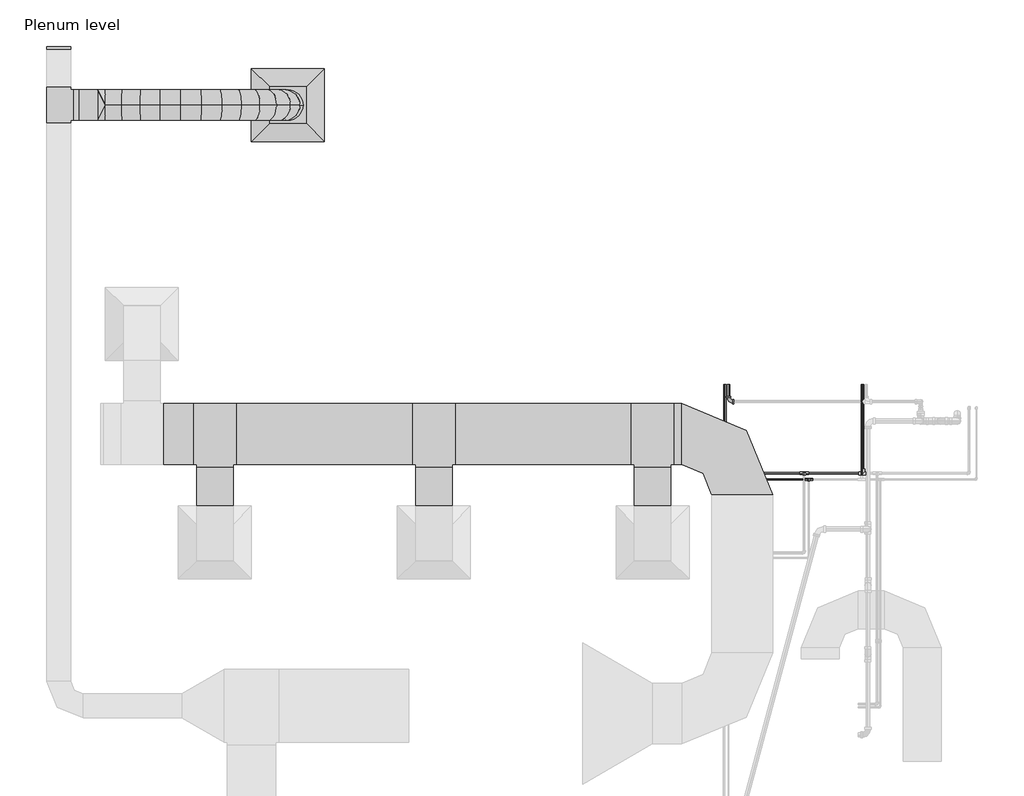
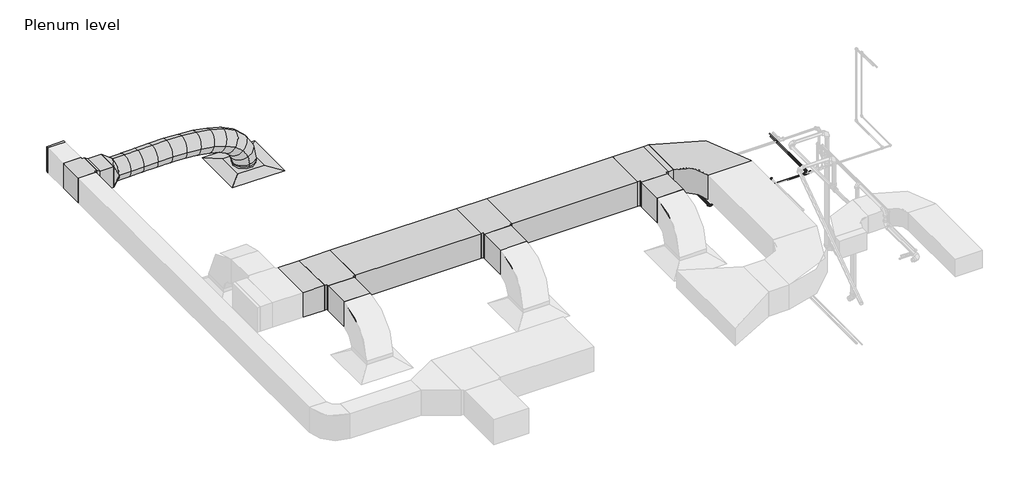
# One storey, part 4 of 5: 10 pipe segments, 9 duct segments, 8 duct fittings, 8 pipe fittings, 1 air terminal.
"""IFC4 building model written with IfcOpenShell, lengths in millimetres."""

from ifc_helpers import new_model, si_unit, point, frame, frame_2d, origin, place, context, project, spatial, polyline, circle_curve, ellipse_curve, trimmed, segment, composite_curve, outline, extrude, transform, mapped, element, save
from ifc_brep_helpers import plane_surface, cylinder_surface, advanced_brep
from components import m_supply_diffuser_rectangular_face_round_neck_600x600_250_c542da2c, m_rectangular_elbow_radius_1_w_abe20169, m_rectangular_endcap_standard_1e8adfdf, m_rectangular_tee_standard_8f40cb32, m_rectangular_tee_standard_67f42514, m_rectangular_transition_angle_60_degree_feee1646, m_rectangular_to_round_transition_angle_45_degree_cdddea5c, m_bend_pvc_sch_40_dwv_standard_a6d4ec87, m_elbow_welded_generic_standard_3d1f096c, m_elbow_welded_generic_standard_8e0ccdf9, m_tee_welded_generic_standard_d48cdf89, m_tee_welded_generic_standard_757b4df2

model = new_model("IFC4")

# Units and contexts
model_context = context("Model", 3, world=origin())
ifc_project = project(units=[si_unit("LENGTHUNIT", "METRE", prefix="MILLI")], contexts=[model_context])

# Site, building, storey
site = spatial("IfcSite", under=ifc_project)
building = spatial("IfcBuilding", under=site)
storey = spatial("IfcBuildingStorey", under=building, Name="Plenum level", Elevation=2500.0)

# Air terminal
placement = place(None, origin())
m_supply_diffuser_rectangular_face_round_neck_600x600_250_shape = m_supply_diffuser_rectangular_face_round_neck_600x600_250_c542da2c(model_context)
element("IfcAirTerminal", 1, ObjectType="M_Supply Diffuser - Rectangular Face Round Neck : 600x600 - 250 Neck", at=placement, inside=storey, context=model_context, shape_type="MappedRepresentation", body=[
    mapped(m_supply_diffuser_rectangular_face_round_neck_600x600_250_shape, transform((-15062.9123896, 3144.5675672, 2500.0), x_axis=(1.0, 0.0, 0.0), y_axis=(0.0, 1.0, 0.0), z_axis=(0.0, 0.0, 1.0))),
])

# Duct fittings
m_rectangular_elbow_radius_1_w_shape = m_rectangular_elbow_radius_1_w_abe20169(model_context)
element("IfcDuctFitting", 2, ObjectType="M_Rectangular Elbow - Radius : 1 W", at=placement, inside=storey, context=model_context, shape_type="MappedRepresentation", body=[
    mapped(m_rectangular_elbow_radius_1_w_shape, transform((-11325.0225036, 438.0925672, 2941.2), x_axis=(0.0, 1.0, 0.0), y_axis=(-1.0, 0.0, 0.0), z_axis=(0.0, 0.0, 1.0))),
])
m_rectangular_endcap_standard_shape = m_rectangular_endcap_standard_1e8adfdf(model_context)
element("IfcDuctFitting", 3, ObjectType="M_Rectangular Endcap : Standard", at=placement, inside=storey, context=model_context, shape_type="MappedRepresentation", body=[
    mapped(m_rectangular_endcap_standard_shape, transform((-16947.2723444, 3601.5909932, 2965.8874921), x_axis=(0.0, 0.9999999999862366, 5.246621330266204e-06), y_axis=(-1.0000000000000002, 0.0, 0.0), z_axis=(0.0, -5.246621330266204e-06, 0.9999999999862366))),
])
m_rectangular_tee_standard_shape = m_rectangular_tee_standard_8f40cb32(model_context)
element("IfcDuctFitting", 4, ObjectType="M_Rectangular Tee : Standard", at=placement, inside=storey, context=model_context, shape_type="MappedRepresentation", body=[
    mapped(m_rectangular_tee_standard_shape, transform((-16947.2723444, 3144.5675672, 2965.8850943), x_axis=(0.0, 0.9999999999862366, 5.246621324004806e-06), y_axis=(-1.0000000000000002, 0.0, 0.0), z_axis=(0.0, -5.246621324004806e-06, 0.9999999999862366))),
])
m_rectangular_tee_standard_2_shape = m_rectangular_tee_standard_67f42514(model_context)
element("IfcDuctFitting", 5, ObjectType="M_Rectangular Tee : Standard", at=placement, inside=storey, context=model_context, shape_type="MappedRepresentation", body=[
    mapped(m_rectangular_tee_standard_2_shape, transform((-12062.9123896, 438.0925672, 2941.2), x_axis=(1.0, 0.0, 0.0), y_axis=(0.0, 1.0, 0.0), z_axis=(0.0, 0.0, 1.0))),
])
element("IfcDuctFitting", 6, ObjectType="M_Rectangular Tee : Standard", at=placement, inside=storey, context=model_context, shape_type="MappedRepresentation", body=[
    mapped(m_rectangular_tee_standard_2_shape, transform((-13862.9123896, 438.0925672, 2941.2), x_axis=(1.0, 0.0, 0.0), y_axis=(0.0, 1.0, 0.0), z_axis=(0.0, 0.0, 1.0))),
])
element("IfcDuctFitting", 7, ObjectType="M_Rectangular Tee : Standard", at=placement, inside=storey, context=model_context, shape_type="MappedRepresentation", body=[
    mapped(m_rectangular_tee_standard_2_shape, transform((-15662.9123896, 438.0925672, 2941.2), x_axis=(1.0, 0.0, 0.0), y_axis=(0.0, 1.0, 0.0), z_axis=(0.0, 0.0, 1.0))),
])
m_rectangular_transition_angle_60_degree_shape = m_rectangular_transition_angle_60_degree_feee1646(model_context)
element("IfcDuctFitting", 8, ObjectType="M_Rectangular Transition - Angle : 60 Degree", at=placement, inside=storey, context=model_context, shape_type="MappedRepresentation", body=[
    mapped(m_rectangular_transition_angle_60_degree_shape, transform((-16822.2723444, 3144.5675672, 2965.8850943), x_axis=(1.0, 0.0, 0.0), y_axis=(0.0, 0.9999999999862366, 5.2466213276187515e-06), z_axis=(0.0, -5.2466213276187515e-06, 0.9999999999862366))),
])
m_rectangular_to_round_transition_angle_45_degree_shape = m_rectangular_to_round_transition_angle_45_degree_cdddea5c(model_context)
element("IfcDuctFitting", 9, ObjectType="M_Rectangular to Round Transition - Angle : 45 Degree", at=placement, inside=storey, context=model_context, shape_type="MappedRepresentation", body=[
    mapped(m_rectangular_to_round_transition_angle_45_degree_shape, transform((-16626.2489048, 3144.5675672, 2965.8850943), x_axis=(1.0, 0.0, 0.0), y_axis=(0.0, 1.0, 0.0), z_axis=(0.0, 0.0, 1.0))),
])

# Duct segments
element("IfcDuctSegment", 10, ObjectType="Default", at=placement, inside=storey, context=model_context, shape_type="SweptSolid", body=[
    extrude(outline(polyline([(-16778.9710742, 3019.5675672), (-16778.9710742, 3269.5675672), (-16626.2489048, 3269.5675672), (-16626.2489048, 3019.5675672), (-16778.9710742, 3019.5675672)])), frame((0.0, 0.0, 2840.8850943), z_axis=(0.0, 0.0, 1.0), x_axis=(1.0, 0.0, 0.0)), (0.0, 0.0, 1.0), 250.0),
])
element("IfcDuctSegment", 11, ObjectType="Default", at=placement, inside=storey, context=model_context, shape_type="SweptSolid", body=[
    extrude(outline(polyline([(-12212.9123896, 163.0925672), (-11912.9123896, 163.0925672), (-11912.9123896, -155.4324328), (-12212.9123896, -155.4324328), (-12212.9123896, 163.0925672)])), frame((0.0, 0.0, 2791.2), z_axis=(0.0, 0.0, 1.0), x_axis=(1.0, 0.0, 0.0)), (0.0, 0.0, 1.0), 300.0),
])
element("IfcDuctSegment", 12, ObjectType="Default", at=placement, inside=storey, context=model_context, shape_type="SweptSolid", body=[
    extrude(outline(polyline([(-11825.0225036, 688.0925672), (-11825.0225036, 188.0925672), (-11887.9123896, 188.0925672), (-11887.9123896, 688.0925672), (-11825.0225036, 688.0925672)])), frame((0.0, 0.0, 2791.2), z_axis=(0.0, 0.0, 1.0), x_axis=(1.0, 0.0, 0.0)), (0.0, 0.0, 1.0), 300.0),
])
element("IfcDuctSegment", 13, ObjectType="Default", at=placement, inside=storey, context=model_context, shape_type="SweptSolid", body=[
    extrude(outline(polyline([(-14012.9123896, 163.0925672), (-13712.9123896, 163.0925672), (-13712.9123896, -155.4324328), (-14012.9123896, -155.4324328), (-14012.9123896, 163.0925672)])), frame((0.0, 0.0, 2791.2), z_axis=(0.0, 0.0, 1.0), x_axis=(1.0, 0.0, 0.0)), (0.0, 0.0, 1.0), 300.0),
])
element("IfcDuctSegment", 14, ObjectType="Default", at=placement, inside=storey, context=model_context, shape_type="SweptSolid", body=[
    extrude(outline(polyline([(-12237.9123896, 688.0925672), (-12237.9123896, 188.0925672), (-13687.9123896, 188.0925672), (-13687.9123896, 688.0925672), (-12237.9123896, 688.0925672)])), frame((0.0, 0.0, 2791.2), z_axis=(0.0, 0.0, 1.0), x_axis=(1.0, 0.0, 0.0)), (0.0, 0.0, 1.0), 300.0),
])
element("IfcDuctSegment", 15, ObjectType="Default", at=placement, inside=storey, context=model_context, shape_type="SweptSolid", body=[
    extrude(outline(polyline([(-15812.9123896, 163.0925672), (-15512.9123896, 163.0925672), (-15512.9123896, -155.4324328), (-15812.9123896, -155.4324328), (-15812.9123896, 163.0925672)])), frame((0.0, 0.0, 2791.2), z_axis=(0.0, 0.0, 1.0), x_axis=(1.0, 0.0, 0.0)), (0.0, 0.0, 1.0), 300.0),
])
element("IfcDuctSegment", 16, ObjectType="Default", at=placement, inside=storey, context=model_context, shape_type="SweptSolid", body=[
    extrude(outline(polyline([(-14037.9123896, 688.0925672), (-14037.9123896, 188.0925672), (-15487.9123896, 188.0925672), (-15487.9123896, 688.0925672), (-14037.9123896, 688.0925672)])), frame((0.0, 0.0, 2791.2), z_axis=(0.0, 0.0, 1.0), x_axis=(1.0, 0.0, 0.0)), (0.0, 0.0, 1.0), 300.0),
])
element("IfcDuctSegment", 17, ObjectType="Default", at=placement, inside=storey, context=model_context, shape_type="SweptSolid", body=[
    extrude(outline(polyline([(-15837.9123896, 688.0925672), (-15837.9123896, 188.0925672), (-16087.9123896, 188.0925672), (-16087.9123896, 688.0925672), (-15837.9123896, 688.0925672)])), frame((0.0, 0.0, 2791.2), z_axis=(0.0, 0.0, 1.0), x_axis=(1.0, 0.0, 0.0)), (0.0, 0.0, 1.0), 300.0),
])
element("IfcDuctSegment", 18, ObjectType="Flex - Round", at=placement, inside=storey, context=model_context, shape_type="AdvancedBrep", body=[
    advanced_brep(
    [(-14937.9123896, 3144.5675672, 2553.975), (-15062.9123896, 3019.5675672, 2553.975), (-15187.9123896, 3144.5675672, 2553.975), (-15062.9123896, 3269.5675672, 2553.975), (-14937.9123896, 3144.5675672, 2587.2270499), (-15062.9123896, 3019.5675672, 2574.6366163), (-15187.9123896, 3144.5675672, 2562.0461826), (-15062.9123896, 3269.5675672, 2574.6366163), (-14964.259061, 3144.5675672, 2716.6873377), (-15082.5355095, 3019.5675672, 2671.0592234), (-15200.8119579, 3144.5675672, 2625.4311091), (-15082.5355095, 3269.5675672, 2671.0592234), (-15041.4015956, 3144.5675672, 2846.6748332), (-15138.0591802, 3019.5675672, 2764.6182818), (-15234.7167648, 3144.5675672, 2682.5617304), (-15138.0591802, 3269.5675672, 2764.6182818), (-15156.0615793, 3144.5675672, 2942.9846691), (-15224.4648688, 3019.5675672, 2837.1956311), (-15292.8681583, 3144.5675672, 2731.4065931), (-15224.4648688, 3269.5675672, 2837.1956311), (-15292.0074788, 3144.5675672, 3008.5412944), (-15336.7340421, 3019.5675672, 2891.3347273), (-15381.4606054, 3144.5675672, 2774.1281602), (-15336.7340421, 3269.5675672, 2891.3347273), (-15442.1968544, 3144.5675672, 3051.6913913), (-15469.848167, 3019.5675672, 2929.5790263), (-15497.4994796, 3144.5675672, 2807.4666613), (-15469.848167, 3269.5675672, 2929.5790263), (-15602.9725882, 3144.5675672, 3078.562406), (-15618.7887104, 3019.5675672, 2954.4719839), (-15634.6048326, 3144.5675672, 2830.3815619), (-15618.7887104, 3269.5675672, 2954.4719839), (-15770.846162, 3144.5675672, 3093.363875), (-15778.5371392, 3019.5675672, 2968.5570562), (-15786.2281163, 3144.5675672, 2843.7502374), (-15778.5371392, 3269.5675672, 2968.5570562), (-15941.8405281, 3144.5675672, 3099.3763824), (-15944.0749202, 3019.5675672, 2974.377699), (-15946.3093123, 3144.5675672, 2849.3790157), (-15944.0749202, 3269.5675672, 2974.377699), (-16111.5329555, 3144.5675672, 3099.4780796), (-16110.3835204, 3019.5675672, 2974.4773683), (-16109.2340852, 3144.5675672, 2849.476657), (-16110.3835204, 3269.5675672, 2974.4773683), (-16275.1491002, 3144.5675672, 3096.370694), (-16272.4444066, 3019.5675672, 2971.39952), (-16269.7397131, 3144.5675672, 2846.4283461), (-16272.4444066, 3269.5675672, 2971.39952), (-16427.570296, 3144.5675672, 3092.6678562), (-16425.2390458, 3019.5675672, 2967.68761), (-16422.9077956, 3144.5675672, 2842.7073638), (-16425.2390458, 3269.5675672, 2967.68761), (-16565.3754705, 3144.5675672, 3090.874511), (-16563.7489048, 3019.5675672, 2965.8850943), (-16562.122339, 3144.5675672, 2840.8956776), (-16563.7489048, 3269.5675672, 2965.8850943)],
    [
        (0, 1, circle_curve(frame((-15062.9123896, 3144.5675672, 2553.975), z_axis=(0.0, 0.0, -1.0), x_axis=(1.0, 0.0, 0.0)), 125.0)),
        (1, 2, circle_curve(frame((-15062.9123896, 3144.5675672, 2553.975), z_axis=(0.0, 0.0, -1.0), x_axis=(1.0, 0.0, 0.0)), 125.0)),
        (2, 3, circle_curve(frame((-15062.9123896, 3144.5675672, 2553.975), z_axis=(0.0, 0.0, -1.0), x_axis=(1.0, 0.0, 0.0)), 125.0)),
        (3, 0, circle_curve(frame((-15062.9123896, 3144.5675672, 2553.975), z_axis=(0.0, 0.0, -1.0), x_axis=(1.0, 0.0, 0.0)), 125.0)),
        (0, 4),
        (4, 5, ellipse_curve(frame((-15062.9123896, 3144.5675672, 2574.6366163), z_axis=(0.10021639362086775, 0.0, -0.9949656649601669), x_axis=(-0.9949656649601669, 0.0, -0.10021639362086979)), 125.632476, 125.0)),
        (5, 1),
        (5, 6, ellipse_curve(frame((-15062.9123896, 3144.5675672, 2574.6366163), z_axis=(0.10021639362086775, 0.0, -0.9949656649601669), x_axis=(-0.9949656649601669, 0.0, -0.10021639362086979)), 125.632476, 125.0)),
        (6, 2),
        (6, 7, ellipse_curve(frame((-15062.9123896, 3144.5675672, 2574.6366163), z_axis=(0.10021639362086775, 0.0, -0.9949656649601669), x_axis=(-0.9949656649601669, 0.0, -0.10021639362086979)), 125.632476, 125.0)),
        (7, 3),
        (7, 4, ellipse_curve(frame((-15062.9123896, 3144.5675672, 2574.6366163), z_axis=(0.10021639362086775, 0.0, -0.9949656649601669), x_axis=(-0.9949656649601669, 0.0, -0.10021639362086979)), 125.632476, 125.0)),
        (4, 8),
        (8, 9, ellipse_curve(frame((-15082.5355095, 3144.5675672, 2671.0592234), z_axis=(0.35992149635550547, 0.0, -0.9329825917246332), x_axis=(-0.9329825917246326, 0.0, -0.35992149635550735)), 126.7724066, 125.0)),
        (9, 5),
        (9, 10, ellipse_curve(frame((-15082.5355095, 3144.5675672, 2671.0592234), z_axis=(0.35992149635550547, 0.0, -0.9329825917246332), x_axis=(-0.9329825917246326, 0.0, -0.35992149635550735)), 126.7724066, 125.0)),
        (10, 6),
        (10, 11, ellipse_curve(frame((-15082.5355095, 3144.5675672, 2671.0592234), z_axis=(0.35992149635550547, 0.0, -0.9329825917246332), x_axis=(-0.9329825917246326, 0.0, -0.35992149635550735)), 126.7724066, 125.0)),
        (11, 7),
        (11, 8, ellipse_curve(frame((-15082.5355095, 3144.5675672, 2671.0592234), z_axis=(0.35992149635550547, 0.0, -0.9329825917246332), x_axis=(-0.9329825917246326, 0.0, -0.35992149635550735)), 126.7724066, 125.0)),
        (8, 12),
        (12, 13, ellipse_curve(frame((-15138.0591802, 3144.5675672, 2764.6182818), z_axis=(0.6471794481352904, 0.0, -0.7623376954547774), x_axis=(-0.7623376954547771, 0.0, -0.6471794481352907)), 126.7910339, 125.0)),
        (13, 9),
        (13, 14, ellipse_curve(frame((-15138.0591802, 3144.5675672, 2764.6182818), z_axis=(0.6471794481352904, 0.0, -0.7623376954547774), x_axis=(-0.7623376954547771, 0.0, -0.6471794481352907)), 126.7910339, 125.0)),
        (14, 10),
        (14, 15, ellipse_curve(frame((-15138.0591802, 3144.5675672, 2764.6182818), z_axis=(0.6471794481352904, 0.0, -0.7623376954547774), x_axis=(-0.7623376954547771, 0.0, -0.6471794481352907)), 126.7910339, 125.0)),
        (15, 11),
        (15, 12, ellipse_curve(frame((-15138.0591802, 3144.5675672, 2764.6182818), z_axis=(0.6471794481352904, 0.0, -0.7623376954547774), x_axis=(-0.7623376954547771, 0.0, -0.6471794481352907)), 126.7910339, 125.0)),
        (12, 16),
        (16, 17, ellipse_curve(frame((-15224.4648688, 3144.5675672, 2837.1956311), z_axis=(0.8397454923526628, 0.0, -0.5429802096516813), x_axis=(-0.5429802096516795, 0.0, -0.839745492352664)), 125.9775003, 125.0)),
        (17, 13),
        (17, 18, ellipse_curve(frame((-15224.4648688, 3144.5675672, 2837.1956311), z_axis=(0.8397454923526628, 0.0, -0.5429802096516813), x_axis=(-0.5429802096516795, 0.0, -0.839745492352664)), 125.9775003, 125.0)),
        (18, 14),
        (18, 19, ellipse_curve(frame((-15224.4648688, 3144.5675672, 2837.1956311), z_axis=(0.8397454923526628, 0.0, -0.5429802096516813), x_axis=(-0.5429802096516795, 0.0, -0.839745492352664)), 125.9775003, 125.0)),
        (19, 15),
        (19, 16, ellipse_curve(frame((-15224.4648688, 3144.5675672, 2837.1956311), z_axis=(0.8397454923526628, 0.0, -0.5429802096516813), x_axis=(-0.5429802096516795, 0.0, -0.839745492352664)), 125.9775003, 125.0)),
        (16, 20),
        (20, 21, ellipse_curve(frame((-15336.7340421, 3144.5675672, 2891.3347273), z_axis=(0.9342848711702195, 0.0, -0.35652738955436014), x_axis=(-0.35652738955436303, 0.0, -0.9342848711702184)), 125.4505673, 125.0)),
        (21, 17),
        (21, 22, ellipse_curve(frame((-15336.7340421, 3144.5675672, 2891.3347273), z_axis=(0.9342848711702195, 0.0, -0.35652738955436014), x_axis=(-0.35652738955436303, 0.0, -0.9342848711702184)), 125.4505673, 125.0)),
        (22, 18),
        (22, 23, ellipse_curve(frame((-15336.7340421, 3144.5675672, 2891.3347273), z_axis=(0.9342848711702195, 0.0, -0.35652738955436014), x_axis=(-0.35652738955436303, 0.0, -0.9342848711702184)), 125.4505673, 125.0)),
        (23, 19),
        (23, 20, ellipse_curve(frame((-15336.7340421, 3144.5675672, 2891.3347273), z_axis=(0.9342848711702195, 0.0, -0.35652738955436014), x_axis=(-0.35652738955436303, 0.0, -0.9342848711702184)), 125.4505673, 125.0)),
        (20, 24),
        (24, 25, ellipse_curve(frame((-15469.848167, 3144.5675672, 2929.5790263), z_axis=(0.97530774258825, 0.0, -0.22085019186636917), x_axis=(-0.22085019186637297, 0.0, -0.975307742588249)), 125.2039327, 125.0)),
        (25, 21),
        (25, 26, ellipse_curve(frame((-15469.848167, 3144.5675672, 2929.5790263), z_axis=(0.97530774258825, 0.0, -0.22085019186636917), x_axis=(-0.22085019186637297, 0.0, -0.975307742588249)), 125.2039327, 125.0)),
        (26, 22),
        (26, 27, ellipse_curve(frame((-15469.848167, 3144.5675672, 2929.5790263), z_axis=(0.97530774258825, 0.0, -0.22085019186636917), x_axis=(-0.22085019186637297, 0.0, -0.975307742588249)), 125.2039327, 125.0)),
        (27, 23),
        (27, 24, ellipse_curve(frame((-15469.848167, 3144.5675672, 2929.5790263), z_axis=(0.97530774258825, 0.0, -0.22085019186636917), x_axis=(-0.22085019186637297, 0.0, -0.975307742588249)), 125.2039327, 125.0)),
        (24, 28),
        (28, 29, ellipse_curve(frame((-15618.7887104, 3144.5675672, 2954.4719839), z_axis=(0.991975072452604, 0.0, -0.12643360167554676), x_axis=(-0.12643360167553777, 0.0, -0.9919750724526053)), 125.0942947, 125.0)),
        (29, 25),
        (29, 30, ellipse_curve(frame((-15618.7887104, 3144.5675672, 2954.4719839), z_axis=(0.991975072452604, 0.0, -0.12643360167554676), x_axis=(-0.12643360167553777, 0.0, -0.9919750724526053)), 125.0942947, 125.0)),
        (30, 26),
        (30, 31, ellipse_curve(frame((-15618.7887104, 3144.5675672, 2954.4719839), z_axis=(0.991975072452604, 0.0, -0.12643360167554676), x_axis=(-0.12643360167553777, 0.0, -0.9919750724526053)), 125.0942947, 125.0)),
        (31, 27),
        (31, 28, ellipse_curve(frame((-15618.7887104, 3144.5675672, 2954.4719839), z_axis=(0.991975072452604, 0.0, -0.12643360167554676), x_axis=(-0.12643360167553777, 0.0, -0.9919750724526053)), 125.0942947, 125.0)),
        (28, 32),
        (32, 33, ellipse_curve(frame((-15778.5371392, 3144.5675672, 2968.5570562), z_axis=(0.9981066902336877, 0.0, -0.06150638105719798), x_axis=(-0.06150638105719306, 0.0, -0.9981066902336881)), 125.043565, 125.0)),
        (33, 29),
        (33, 34, ellipse_curve(frame((-15778.5371392, 3144.5675672, 2968.5570562), z_axis=(0.9981066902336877, 0.0, -0.06150638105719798), x_axis=(-0.06150638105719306, 0.0, -0.9981066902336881)), 125.043565, 125.0)),
        (34, 30),
        (34, 35, ellipse_curve(frame((-15778.5371392, 3144.5675672, 2968.5570562), z_axis=(0.9981066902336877, 0.0, -0.06150638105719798), x_axis=(-0.06150638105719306, 0.0, -0.9981066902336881)), 125.043565, 125.0)),
        (35, 31),
        (35, 32, ellipse_curve(frame((-15778.5371392, 3144.5675672, 2968.5570562), z_axis=(0.9981066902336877, 0.0, -0.06150638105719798), x_axis=(-0.06150638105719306, 0.0, -0.9981066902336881)), 125.043565, 125.0)),
        (32, 36),
        (36, 37, ellipse_curve(frame((-15944.0749202, 3144.5675672, 2974.377699), z_axis=(0.9998402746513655, 0.0, -0.01787247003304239), x_axis=(-0.017872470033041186, 0.0, -0.9998402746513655)), 125.018652, 125.0)),
        (37, 33),
        (37, 38, ellipse_curve(frame((-15944.0749202, 3144.5675672, 2974.377699), z_axis=(0.9998402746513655, 0.0, -0.01787247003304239), x_axis=(-0.017872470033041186, 0.0, -0.9998402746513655)), 125.018652, 125.0)),
        (38, 34),
        (38, 39, ellipse_curve(frame((-15944.0749202, 3144.5675672, 2974.377699), z_axis=(0.9998402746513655, 0.0, -0.01787247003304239), x_axis=(-0.017872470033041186, 0.0, -0.9998402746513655)), 125.018652, 125.0)),
        (39, 35),
        (39, 36, ellipse_curve(frame((-15944.0749202, 3144.5675672, 2974.377699), z_axis=(0.9998402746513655, 0.0, -0.01787247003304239), x_axis=(-0.017872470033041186, 0.0, -0.9998402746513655)), 125.018652, 125.0)),
        (36, 40),
        (40, 41, ellipse_curve(frame((-16110.3835204, 3144.5675672, 2974.4773683), z_axis=(0.9999577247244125, 0.0, 0.009195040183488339), x_axis=(0.009195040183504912, 0.0, -0.9999577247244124)), 125.005996, 125.0)),
        (41, 37),
        (41, 42, ellipse_curve(frame((-16110.3835204, 3144.5675672, 2974.4773683), z_axis=(0.9999577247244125, 0.0, 0.009195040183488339), x_axis=(0.009195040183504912, 0.0, -0.9999577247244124)), 125.005996, 125.0)),
        (42, 38),
        (42, 43, ellipse_curve(frame((-16110.3835204, 3144.5675672, 2974.4773683), z_axis=(0.9999577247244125, 0.0, 0.009195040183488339), x_axis=(0.009195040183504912, 0.0, -0.9999577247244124)), 125.005996, 125.0)),
        (43, 39),
        (43, 40, ellipse_curve(frame((-16110.3835204, 3144.5675672, 2974.4773683), z_axis=(0.9999577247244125, 0.0, 0.009195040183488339), x_axis=(0.009195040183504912, 0.0, -0.9999577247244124)), 125.005996, 125.0)),
        (40, 44),
        (44, 45, ellipse_curve(frame((-16272.4444066, 3144.5675672, 2971.39952), z_axis=(0.9997658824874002, 0.0, 0.021637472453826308), x_axis=(0.021637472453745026, 0.0, -0.9997658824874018)), 125.0004387, 125.0)),
        (45, 41),
        (45, 46, ellipse_curve(frame((-16272.4444066, 3144.5675672, 2971.39952), z_axis=(0.9997658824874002, 0.0, 0.021637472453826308), x_axis=(0.021637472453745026, 0.0, -0.9997658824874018)), 125.0004387, 125.0)),
        (46, 42),
        (46, 47, ellipse_curve(frame((-16272.4444066, 3144.5675672, 2971.39952), z_axis=(0.9997658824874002, 0.0, 0.021637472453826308), x_axis=(0.021637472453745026, 0.0, -0.9997658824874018)), 125.0004387, 125.0)),
        (47, 43),
        (47, 44, ellipse_curve(frame((-16272.4444066, 3144.5675672, 2971.39952), z_axis=(0.9997658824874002, 0.0, 0.021637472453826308), x_axis=(0.021637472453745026, 0.0, -0.9997658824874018)), 125.0004387, 125.0)),
        (44, 48),
        (48, 49, ellipse_curve(frame((-16425.2390458, 3144.5675672, 2967.68761), z_axis=(0.9998260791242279, 0.0, 0.01864970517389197), x_axis=(-0.01864970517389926, 0.0, 0.9998260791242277)), 125.0019866, 125.0)),
        (49, 45),
        (49, 50, ellipse_curve(frame((-16425.2390458, 3144.5675672, 2967.68761), z_axis=(0.9998260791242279, 0.0, 0.01864970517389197), x_axis=(-0.01864970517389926, 0.0, 0.9998260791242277)), 125.0019866, 125.0)),
        (50, 46),
        (50, 51, ellipse_curve(frame((-16425.2390458, 3144.5675672, 2967.68761), z_axis=(0.9998260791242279, 0.0, 0.01864970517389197), x_axis=(-0.01864970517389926, 0.0, 0.9998260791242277)), 125.0019866, 125.0)),
        (51, 47),
        (51, 48, ellipse_curve(frame((-16425.2390458, 3144.5675672, 2967.68761), z_axis=(0.9998260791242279, 0.0, 0.01864970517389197), x_axis=(-0.01864970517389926, 0.0, 0.9998260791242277)), 125.0019866, 125.0)),
        (48, 52),
        (52, 53, circle_curve(frame((-16563.7489048, 3144.5675672, 2965.8850943), z_axis=(0.9999153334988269, 0.0, 0.013012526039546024), x_axis=(-0.013012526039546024, 0.0, 0.9999153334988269)), 125.0)),
        (53, 49),
        (53, 54, circle_curve(frame((-16563.7489048, 3144.5675672, 2965.8850943), z_axis=(0.9999153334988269, 0.0, 0.013012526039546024), x_axis=(-0.013012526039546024, 0.0, 0.9999153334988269)), 125.0)),
        (54, 50),
        (54, 55, circle_curve(frame((-16563.7489048, 3144.5675672, 2965.8850943), z_axis=(0.9999153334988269, 0.0, 0.013012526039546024), x_axis=(-0.013012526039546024, 0.0, 0.9999153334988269)), 125.0)),
        (55, 51),
        (55, 52, circle_curve(frame((-16563.7489048, 3144.5675672, 2965.8850943), z_axis=(0.9999153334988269, 0.0, 0.013012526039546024), x_axis=(-0.013012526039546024, 0.0, 0.9999153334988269)), 125.0)),
    ],
    [
        plane_surface(frame((-15062.9123896, 3019.5675672, 2553.975), z_axis=(0.0, 0.0, -1.0), x_axis=(1.0, 0.0, 0.0))),
        cylinder_surface(frame((-15062.9123896, 3144.5675672, 2553.975), z_axis=(0.0, 0.0, -1.0), x_axis=(1.0, 0.0, 0.0)), 125.0),
        cylinder_surface(frame((-15062.9123896, 3144.5675672, 2574.6366163), z_axis=(0.19942374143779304, 0.0, -0.9799133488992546), x_axis=(0.9799133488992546, 0.0, 0.19942374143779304)), 125.0),
        cylinder_surface(frame((-15082.5355095, 3144.5675672, 2671.0592234), z_axis=(0.5103551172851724, 0.0, -0.8599637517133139), x_axis=(0.8599637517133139, 0.0, 0.5103551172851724)), 125.0),
        cylinder_surface(frame((-15138.0591802, 3144.5675672, 2764.6182818), z_axis=(0.7657198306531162, 0.0, -0.6431742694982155), x_axis=(0.6431742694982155, 0.0, 0.7657198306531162)), 125.0),
        cylinder_surface(frame((-15224.4648688, 3144.5675672, 2837.1956311), z_axis=(0.900739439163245, 0.0, -0.4343598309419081), x_axis=(0.4343598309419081, 0.0, 0.900739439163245)), 125.0),
        cylinder_surface(frame((-15336.7340421, 3144.5675672, 2891.3347273), z_axis=(0.9611191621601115, 0.0, -0.27613394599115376), x_axis=(0.27613394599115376, 0.0, 0.9611191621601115)), 125.0),
        cylinder_surface(frame((-15469.848167, 3144.5675672, 2929.5790263), z_axis=(0.9863191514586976, 0.0, -0.16484699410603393), x_axis=(0.16484699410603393, 0.0, 0.9863191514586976)), 125.0),
        cylinder_surface(frame((-15618.7887104, 3144.5675672, 2954.4719839), z_axis=(0.9961355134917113, 0.0, -0.08782960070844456), x_axis=(0.08782960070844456, 0.0, 0.9961355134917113)), 125.0),
        cylinder_surface(frame((-15778.5371392, 3144.5675672, 2968.5570562), z_axis=(0.9993823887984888, 0.0, -0.03514030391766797), x_axis=(0.03514030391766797, 0.0, 0.9993823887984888)), 125.0),
        cylinder_surface(frame((-15944.0749202, 3144.5675672, 2974.377699), z_axis=(0.9999998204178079, 0.0, -0.0005993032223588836), x_axis=(0.0005993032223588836, 0.0, 0.9999998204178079)), 125.0),
        cylinder_surface(frame((-16110.3835204, 3144.5675672, 2974.4773683), z_axis=(0.9998197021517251, 0.0, 0.01898850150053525), x_axis=(-0.01898850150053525, 0.0, 0.9998197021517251)), 125.0),
        cylinder_surface(frame((-16272.4444066, 3144.5675672, 2971.39952), z_axis=(0.9997050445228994, 0.0, 0.02428629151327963), x_axis=(-0.02428629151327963, 0.0, 0.9997050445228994)), 125.0),
        cylinder_surface(frame((-16425.2390458, 3144.5675672, 2967.68761), z_axis=(0.9999153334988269, 0.0, 0.013012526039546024), x_axis=(-0.013012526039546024, 0.0, 0.9999153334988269)), 125.0),
        plane_surface(frame((-16563.7489048, 3269.5675672, 2965.8850943), z_axis=(-0.9999153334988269, 0.0, -0.013012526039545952), x_axis=(0.013012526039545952, 0.0, -0.9999153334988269))),
    ],
    [
        (0, [[1, 2, 3, 4]]),
        (1, [[-1, 5, 6, 7]]),
        (1, [[-2, -7, 8, 9]]),
        (1, [[-3, -9, 10, 11]]),
        (1, [[-4, -11, 12, -5]]),
        (2, [[-6, 13, 14, 15]]),
        (2, [[-8, -15, 16, 17]]),
        (2, [[-10, -17, 18, 19]]),
        (2, [[-12, -19, 20, -13]]),
        (3, [[-14, 21, 22, 23]]),
        (3, [[-16, -23, 24, 25]]),
        (3, [[-18, -25, 26, 27]]),
        (3, [[-20, -27, 28, -21]]),
        (4, [[-22, 29, 30, 31]]),
        (4, [[-24, -31, 32, 33]]),
        (4, [[-26, -33, 34, 35]]),
        (4, [[-28, -35, 36, -29]]),
        (5, [[-30, 37, 38, 39]]),
        (5, [[-32, -39, 40, 41]]),
        (5, [[-34, -41, 42, 43]]),
        (5, [[-36, -43, 44, -37]]),
        (6, [[-38, 45, 46, 47]]),
        (6, [[-40, -47, 48, 49]]),
        (6, [[-42, -49, 50, 51]]),
        (6, [[-44, -51, 52, -45]]),
        (7, [[-46, 53, 54, 55]]),
        (7, [[-48, -55, 56, 57]]),
        (7, [[-50, -57, 58, 59]]),
        (7, [[-52, -59, 60, -53]]),
        (8, [[-54, 61, 62, 63]]),
        (8, [[-56, -63, 64, 65]]),
        (8, [[-58, -65, 66, 67]]),
        (8, [[-60, -67, 68, -61]]),
        (9, [[-62, 69, 70, 71]]),
        (9, [[-64, -71, 72, 73]]),
        (9, [[-66, -73, 74, 75]]),
        (9, [[-68, -75, 76, -69]]),
        (10, [[-70, 77, 78, 79]]),
        (10, [[-72, -79, 80, 81]]),
        (10, [[-74, -81, 82, 83]]),
        (10, [[-76, -83, 84, -77]]),
        (11, [[-78, 85, 86, 87]]),
        (11, [[-80, -87, 88, 89]]),
        (11, [[-82, -89, 90, 91]]),
        (11, [[-84, -91, 92, -85]]),
        (12, [[-86, 93, 94, 95]]),
        (12, [[-88, -95, 96, 97]]),
        (12, [[-90, -97, 98, 99]]),
        (12, [[-92, -99, 100, -93]]),
        (13, [[-94, 101, 102, 103]]),
        (13, [[-96, -103, 104, 105]]),
        (13, [[-98, -105, 106, 107]]),
        (13, [[-100, -107, 108, -101]]),
        (14, [[-108, -106, -104, -102]]),
    ],
),
])

# Pipe fittings
m_bend_pvc_sch_40_dwv_standard_shape = m_bend_pvc_sch_40_dwv_standard_a6d4ec87(model_context)
element("IfcPipeFitting", 19, ObjectType="M_Bend - PVC - Sch 40 - DWV : Standard", at=placement, inside=storey, context=model_context, shape_type="MappedRepresentation", body=[
    mapped(m_bend_pvc_sch_40_dwv_standard_shape, transform((-11438.6873896, 704.5675761, 2607.2), x_axis=(0.0, -1.0, 0.0), y_axis=(1.0, 0.0, 0.0), z_axis=(0.0, 0.0, 1.0))),
])
m_elbow_welded_generic_standard_shape = m_elbow_welded_generic_standard_3d1f096c(model_context)
element("IfcPipeFitting", 20, ObjectType="M_Elbow - Welded - Generic : Standard", at=placement, inside=storey, context=model_context, shape_type="MappedRepresentation", body=[
    mapped(m_elbow_welded_generic_standard_shape, transform((-11464.0873896, 114.5675672, 2575.4), x_axis=(0.0, -1.0, 0.0), y_axis=(1.0, 0.0, 0.0), z_axis=(0.0, 0.0, 1.0))),
])
element("IfcPipeFitting", 21, ObjectType="M_Elbow - Welded - Generic : Standard", at=placement, inside=storey, context=model_context, shape_type="MappedRepresentation", body=[
    mapped(m_elbow_welded_generic_standard_shape, transform((-10816.7873896, 114.5675672, 2700.0), x_axis=(0.0, 0.0, 1.0), y_axis=(0.0, -1.0, 0.0), z_axis=(1.0, 0.0, 0.0))),
])
m_elbow_welded_generic_standard_2_shape = m_elbow_welded_generic_standard_8e0ccdf9(model_context)
element("IfcPipeFitting", 22, ObjectType="M_Elbow - Welded - Generic : Standard", at=placement, inside=storey, context=model_context, shape_type="MappedRepresentation", body=[
    mapped(m_elbow_welded_generic_standard_2_shape, transform((-11476.7873896, 64.5675672, 2613.5), x_axis=(0.0, -1.0, 0.0), y_axis=(1.0, 0.0, 0.0), z_axis=(0.0, 0.0, 1.0))),
])
element("IfcPipeFitting", 23, ObjectType="M_Elbow - Welded - Generic : Standard", at=placement, inside=storey, context=model_context, shape_type="MappedRepresentation", body=[
    mapped(m_elbow_welded_generic_standard_2_shape, transform((-10778.6873896, 64.5675672, 2700.0), x_axis=(0.0, 0.0, 1.0), y_axis=(0.0, -1.0, 0.0), z_axis=(1.0, 0.0, 0.0))),
])
m_tee_welded_generic_standard_shape = m_tee_welded_generic_standard_d48cdf89(model_context)
element("IfcPipeFitting", 24, ObjectType="M_Tee - Welded - Generic : Standard", at=placement, inside=storey, context=model_context, shape_type="MappedRepresentation", body=[
    mapped(m_tee_welded_generic_standard_shape, transform((-10816.7873896, 114.5675672, 2575.4), x_axis=(-1.0, 0.0, 0.0), y_axis=(0.0, 0.0, -1.0), z_axis=(0.0, -1.0, 0.0))),
])
element("IfcPipeFitting", 25, ObjectType="M_Tee - Welded - Generic : Standard", at=placement, inside=storey, context=model_context, shape_type="MappedRepresentation", body=[
    mapped(m_tee_welded_generic_standard_shape, transform((-10332.0873896, 114.5675672, 2575.4), x_axis=(-1.0, 0.0, 0.0), y_axis=(0.0, -1.0, 0.0), z_axis=(0.0, 0.0, 1.0))),
])
m_tee_welded_generic_standard_2_shape = m_tee_welded_generic_standard_757b4df2(model_context)
element("IfcPipeFitting", 26, ObjectType="M_Tee - Welded - Generic : Standard", at=placement, inside=storey, context=model_context, shape_type="MappedRepresentation", body=[
    mapped(m_tee_welded_generic_standard_2_shape, transform((-10778.6873896, 64.5675672, 2613.5), x_axis=(-1.0, 0.0, 0.0), y_axis=(0.0, 0.0, -1.0), z_axis=(0.0, -1.0, 0.0))),
])

# Pipe segments
element("IfcPipeSegment", 27, ObjectType="COPPER PIPE", at=placement, inside=storey, context=model_context, shape_type="SweptSolid", body=[
    extrude(outline(composite_curve([segment(trimmed(circle_curve(frame_2d((2575.45, -11464.0873896)), 6.5), [point((2575.45, -11470.5873896))], [point((2568.95, -11464.0873896))], False, "CARTESIAN"), True, "CONTINUOUS"), segment(trimmed(circle_curve(frame_2d((2575.45, -11464.0873896)), 6.5), [point((2568.95, -11464.0873896))], [point((2575.45, -11457.5873896))], False, "CARTESIAN"), True, "CONTINUOUS"), segment(trimmed(circle_curve(frame_2d((2575.45, -11464.0873896)), 6.5), [point((2575.45, -11457.5873896))], [point((2581.95, -11464.0873896))], False, "CARTESIAN"), True, "CONTINUOUS"), segment(trimmed(circle_curve(frame_2d((2575.45, -11464.0873896)), 6.5), [point((2581.95, -11464.0873896))], [point((2575.45, -11470.5873896))], False, "CARTESIAN"), True, "CONTINUOUS")], self_intersect=False)), frame((0.0, 129.3265516, 0.0), z_axis=(0.0, 1.0, 0.0), x_axis=(0.0, 0.0, 1.0)), (0.0, 0.0, 1.0), 715.2410156),
])
element("IfcPipeSegment", 28, ObjectType="COPPER PIPE", at=placement, inside=storey, context=model_context, shape_type="SweptSolid", body=[
    extrude(outline(composite_curve([segment(trimmed(circle_curve(frame_2d((2613.55, -11476.7873896)), 3.5), [point((2613.55, -11480.2873896))], [point((2610.05, -11476.7873896))], False, "CARTESIAN"), True, "CONTINUOUS"), segment(trimmed(circle_curve(frame_2d((2613.55, -11476.7873896)), 3.5), [point((2610.05, -11476.7873896))], [point((2613.55, -11473.2873896))], False, "CARTESIAN"), True, "CONTINUOUS"), segment(trimmed(circle_curve(frame_2d((2613.55, -11476.7873896)), 3.5), [point((2613.55, -11473.2873896))], [point((2617.05, -11476.7873896))], False, "CARTESIAN"), True, "CONTINUOUS"), segment(trimmed(circle_curve(frame_2d((2613.55, -11476.7873896)), 3.5), [point((2617.05, -11476.7873896))], [point((2613.55, -11480.2873896))], False, "CARTESIAN"), True, "CONTINUOUS")], self_intersect=False)), frame((0.0, 76.1765516, 0.0), z_axis=(0.0, 1.0, 0.0), x_axis=(0.0, 0.0, 1.0)), (0.0, 0.0, 1.0), 768.3910156),
])
element("IfcPipeSegment", 29, ObjectType="COPPER PIPE", at=placement, inside=storey, context=model_context, shape_type="SweptSolid", body=[
    extrude(outline(composite_curve([segment(trimmed(circle_curve(frame_2d((2575.45, -10332.0873896)), 6.5), [point((2575.45, -10338.5873896))], [point((2568.95, -10332.0873896))], False, "CARTESIAN"), True, "CONTINUOUS"), segment(trimmed(circle_curve(frame_2d((2575.45, -10332.0873896)), 6.5), [point((2568.95, -10332.0873896))], [point((2575.45, -10325.5873896))], False, "CARTESIAN"), True, "CONTINUOUS"), segment(trimmed(circle_curve(frame_2d((2575.45, -10332.0873896)), 6.5), [point((2575.45, -10325.5873896))], [point((2581.95, -10332.0873896))], False, "CARTESIAN"), True, "CONTINUOUS"), segment(trimmed(circle_curve(frame_2d((2575.45, -10332.0873896)), 6.5), [point((2581.95, -10332.0873896))], [point((2575.45, -10338.5873896))], False, "CARTESIAN"), True, "CONTINUOUS")], self_intersect=False)), frame((0.0, 150.7705047, 0.0), z_axis=(0.0, 1.0, 0.0), x_axis=(0.0, 0.0, 1.0)), (0.0, 0.0, 1.0), 693.7970625),
])
element("IfcPipeSegment", 30, ObjectType="COPPER PIPE", at=placement, inside=storey, context=model_context, shape_type="SweptSolid", body=[
    extrude(outline(composite_curve([segment(trimmed(circle_curve(frame_2d((2613.55, -10344.7873896)), 3.5), [point((2613.55, -10348.2873896))], [point((2610.05, -10344.7873896))], False, "CARTESIAN"), True, "CONTINUOUS"), segment(trimmed(circle_curve(frame_2d((2613.55, -10344.7873896)), 3.5), [point((2610.05, -10344.7873896))], [point((2613.55, -10341.2873896))], False, "CARTESIAN"), True, "CONTINUOUS"), segment(trimmed(circle_curve(frame_2d((2613.55, -10344.7873896)), 3.5), [point((2613.55, -10341.2873896))], [point((2617.05, -10344.7873896))], False, "CARTESIAN"), True, "CONTINUOUS"), segment(trimmed(circle_curve(frame_2d((2613.55, -10344.7873896)), 3.5), [point((2617.05, -10344.7873896))], [point((2613.55, -10348.2873896))], False, "CARTESIAN"), True, "CONTINUOUS")], self_intersect=False)), frame((0.0, 96.2975047, 0.0), z_axis=(0.0, 1.0, 0.0), x_axis=(0.0, 0.0, 1.0)), (0.0, 0.0, 1.0), 748.2700625),
])
element("IfcPipeSegment", 31, ObjectType="COPPER PIPE", at=placement, inside=storey, context=model_context, shape_type="SweptSolid", body=[
    extrude(outline(composite_curve([segment(trimmed(circle_curve(frame_2d((-10816.7873896, 114.5675672)), 6.5), [point((-10823.2873896, 114.5675672))], [point((-10816.7873896, 121.0675672))], False, "CARTESIAN"), True, "CONTINUOUS"), segment(trimmed(circle_curve(frame_2d((-10816.7873896, 114.5675672)), 6.5), [point((-10816.7873896, 121.0675672))], [point((-10810.2873896, 114.5675672))], False, "CARTESIAN"), True, "CONTINUOUS"), segment(trimmed(circle_curve(frame_2d((-10816.7873896, 114.5675672)), 6.5), [point((-10810.2873896, 114.5675672))], [point((-10816.7873896, 108.0675672))], False, "CARTESIAN"), True, "CONTINUOUS"), segment(trimmed(circle_curve(frame_2d((-10816.7873896, 114.5675672)), 6.5), [point((-10816.7873896, 108.0675672))], [point((-10823.2873896, 114.5675672))], False, "CARTESIAN"), True, "CONTINUOUS")], self_intersect=False)), frame((0.0, 0.0, 2611.6029375), z_axis=(0.0, 0.0, 1.0), x_axis=(1.0, 0.0, 0.0)), (0.0, 0.0, 1.0), 73.6380781),
])
element("IfcPipeSegment", 32, ObjectType="COPPER PIPE", at=placement, inside=storey, context=model_context, shape_type="SweptSolid", body=[
    extrude(outline(composite_curve([segment(trimmed(circle_curve(frame_2d((114.5675672, 2575.4)), 6.5), [point((108.0675672, 2575.4))], [point((114.5675672, 2581.9))], False, "CARTESIAN"), True, "CONTINUOUS"), segment(trimmed(circle_curve(frame_2d((114.5675672, 2575.4)), 6.5), [point((114.5675672, 2581.9))], [point((121.0675672, 2575.4))], False, "CARTESIAN"), True, "CONTINUOUS"), segment(trimmed(circle_curve(frame_2d((114.5675672, 2575.4)), 6.5), [point((121.0675672, 2575.4))], [point((114.5675672, 2568.9))], False, "CARTESIAN"), True, "CONTINUOUS"), segment(trimmed(circle_curve(frame_2d((114.5675672, 2575.4)), 6.5), [point((114.5675672, 2568.9))], [point((108.0675672, 2575.4))], False, "CARTESIAN"), True, "CONTINUOUS")], self_intersect=False)), frame((-11449.3284052, 0.0, 0.0), z_axis=(1.0, 0.0, 0.0), x_axis=(0.0, 1.0, 0.0)), (0.0, 0.0, 1.0), 596.3380781),
])
element("IfcPipeSegment", 33, ObjectType="COPPER PIPE", at=placement, inside=storey, context=model_context, shape_type="SweptSolid", body=[
    extrude(outline(composite_curve([segment(trimmed(circle_curve(frame_2d((-10778.6873896, 64.5675672)), 3.5), [point((-10782.1873896, 64.5675672))], [point((-10778.6873896, 68.0675672))], False, "CARTESIAN"), True, "CONTINUOUS"), segment(trimmed(circle_curve(frame_2d((-10778.6873896, 64.5675672)), 3.5), [point((-10778.6873896, 68.0675672))], [point((-10775.1873896, 64.5675672))], False, "CARTESIAN"), True, "CONTINUOUS"), segment(trimmed(circle_curve(frame_2d((-10778.6873896, 64.5675672)), 3.5), [point((-10775.1873896, 64.5675672))], [point((-10778.6873896, 61.0675672))], False, "CARTESIAN"), True, "CONTINUOUS"), segment(trimmed(circle_curve(frame_2d((-10778.6873896, 64.5675672)), 3.5), [point((-10778.6873896, 61.0675672))], [point((-10782.1873896, 64.5675672))], False, "CARTESIAN"), True, "CONTINUOUS")], self_intersect=False)), frame((0.0, 0.0, 2645.2299375), z_axis=(0.0, 0.0, 1.0), x_axis=(1.0, 0.0, 0.0)), (0.0, 0.0, 1.0), 43.1610781),
])
element("IfcPipeSegment", 34, ObjectType="COPPER PIPE", at=placement, inside=storey, context=model_context, shape_type="SweptSolid", body=[
    extrude(outline(composite_curve([segment(trimmed(circle_curve(frame_2d((64.5675672, 2613.5)), 3.5), [point((61.0675672, 2613.5))], [point((64.5675672, 2617.0))], False, "CARTESIAN"), True, "CONTINUOUS"), segment(trimmed(circle_curve(frame_2d((64.5675672, 2613.5)), 3.5), [point((64.5675672, 2617.0))], [point((68.0675672, 2613.5))], False, "CARTESIAN"), True, "CONTINUOUS"), segment(trimmed(circle_curve(frame_2d((64.5675672, 2613.5)), 3.5), [point((68.0675672, 2613.5))], [point((64.5675672, 2610.0))], False, "CARTESIAN"), True, "CONTINUOUS"), segment(trimmed(circle_curve(frame_2d((64.5675672, 2613.5)), 3.5), [point((64.5675672, 2610.0))], [point((61.0675672, 2613.5))], False, "CARTESIAN"), True, "CONTINUOUS")], self_intersect=False)), frame((-11465.1784052, 0.0, 0.0), z_axis=(1.0, 0.0, 0.0), x_axis=(0.0, 1.0, 0.0)), (0.0, 0.0, 1.0), 654.7610781),
])
element("IfcPipeSegment", 35, ObjectType="COPPER PIPE", at=placement, inside=storey, context=model_context, shape_type="SweptSolid", body=[
    extrude(outline(composite_curve([segment(trimmed(circle_curve(frame_2d((114.5675672, 2575.4)), 6.5), [point((108.0675672, 2575.4))], [point((114.5675672, 2581.9))], False, "CARTESIAN"), True, "CONTINUOUS"), segment(trimmed(circle_curve(frame_2d((114.5675672, 2575.4)), 6.5), [point((114.5675672, 2581.9))], [point((121.0675672, 2575.4))], False, "CARTESIAN"), True, "CONTINUOUS"), segment(trimmed(circle_curve(frame_2d((114.5675672, 2575.4)), 6.5), [point((121.0675672, 2575.4))], [point((114.5675672, 2568.9))], False, "CARTESIAN"), True, "CONTINUOUS"), segment(trimmed(circle_curve(frame_2d((114.5675672, 2575.4)), 6.5), [point((114.5675672, 2568.9))], [point((108.0675672, 2575.4))], False, "CARTESIAN"), True, "CONTINUOUS")], self_intersect=False)), frame((-10780.5844521, 0.0, 0.0), z_axis=(1.0, 0.0, 0.0), x_axis=(0.0, 1.0, 0.0)), (0.0, 0.0, 1.0), 412.294125),
])
element("IfcPipeSegment", 36, ObjectType="PVC - DWV", at=placement, inside=storey, context=model_context, shape_type="SweptSolid", body=[
    extrude(outline(composite_curve([segment(trimmed(circle_curve(frame_2d((2607.2, -11438.6873896)), 9.0), [point((2607.2, -11447.6873896))], [point((2598.2, -11438.6873896))], False, "CARTESIAN"), True, "CONTINUOUS"), segment(trimmed(circle_curve(frame_2d((2607.2, -11438.6873896)), 9.0), [point((2598.2, -11438.6873896))], [point((2607.2, -11429.6873896))], False, "CARTESIAN"), True, "CONTINUOUS"), segment(trimmed(circle_curve(frame_2d((2607.2, -11438.6873896)), 9.0), [point((2607.2, -11429.6873896))], [point((2616.2, -11438.6873896))], False, "CARTESIAN"), True, "CONTINUOUS"), segment(trimmed(circle_curve(frame_2d((2607.2, -11438.6873896)), 9.0), [point((2616.2, -11438.6873896))], [point((2607.2, -11447.6873896))], False, "CARTESIAN"), True, "CONTINUOUS")], self_intersect=False)), frame((0.0, 748.4816386, 0.0), z_axis=(0.0, 1.0, 0.0), x_axis=(0.0, 0.0, 1.0)), (0.0, 0.0, 1.0), 96.0859286),
])

save(model, "model.ifc")
